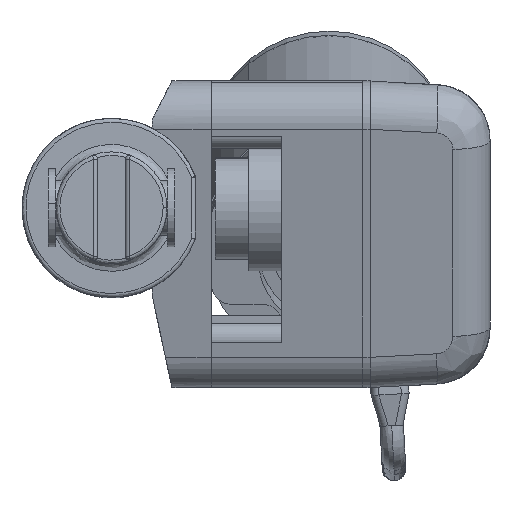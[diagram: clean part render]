
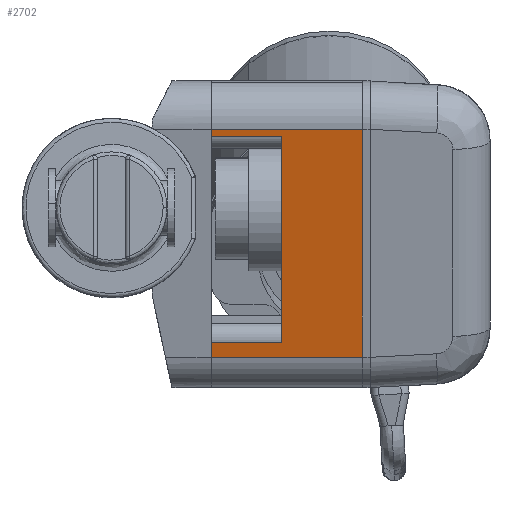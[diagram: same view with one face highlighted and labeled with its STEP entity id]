
A CAD part, top view. The second image highlights one B-rep face of the part: STEP entity #2702.
In plain terms, the highlighted planar face has unit normal (0, -0.233, 0.972).
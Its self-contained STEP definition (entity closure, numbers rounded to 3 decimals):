
#1589 = EDGE_CURVE ( 'NONE', #7650, #7651, #8252, .T. ) ;
#1591 = EDGE_CURVE ( 'NONE', #7651, #7338, #8259, .T. ) ;
#1686 = EDGE_CURVE ( 'NONE', #7384, #7383, #8690, .T. ) ;
#1707 = EDGE_CURVE ( 'NONE', #7701, #7702, #8753, .T. ) ;
#1772 = EDGE_CURVE ( 'NONE', #7338, #7336, #9192, .T. ) ;
#1863 = EDGE_CURVE ( 'NONE', #7384, #7650, #9815, .T. ) ;
#1871 = EDGE_CURVE ( 'NONE', #7702, #7383, #9839, .T. ) ;
#1872 = EDGE_CURVE ( 'NONE', #7336, #7701, #9842, .T. ) ;
#2702 = ADVANCED_FACE ( 'NONE', ( #3249 ), #13889, .T. ) ;
#3225 = AXIS2_PLACEMENT_3D ( 'NONE', #13890, #13891, #13892 ) ;
#3249 = FACE_OUTER_BOUND ( 'NONE', #20035, .T. ) ;
#4020 = VECTOR ( 'NONE', #8254, 1000. ) ;
#4037 = VECTOR ( 'NONE', #8261, 1000. ) ;
#4104 = VECTOR ( 'NONE', #8692, 1000. ) ;
#4159 = VECTOR ( 'NONE', #8755, 1000. ) ;
#4275 = VECTOR ( 'NONE', #9194, 1000. ) ;
#7336 = VERTEX_POINT ( 'NONE', #18255 ) ;
#7338 = VERTEX_POINT ( 'NONE', #18257 ) ;
#7383 = VERTEX_POINT ( 'NONE', #18302 ) ;
#7384 = VERTEX_POINT ( 'NONE', #18303 ) ;
#7650 = VERTEX_POINT ( 'NONE', #18544 ) ;
#7651 = VERTEX_POINT ( 'NONE', #18545 ) ;
#7701 = VERTEX_POINT ( 'NONE', #18583 ) ;
#7702 = VERTEX_POINT ( 'NONE', #18584 ) ;
#8252 = LINE ( 'NONE', #8253, #4020 ) ;
#8253 = CARTESIAN_POINT ( 'NONE',  ( 43.4, 18.261, 42.839 ) ) ;
#8254 = DIRECTION ( 'NONE',  ( 1., 0., 0. ) ) ;
#8259 = LINE ( 'NONE', #8260, #4037 ) ;
#8260 = CARTESIAN_POINT ( 'NONE',  ( 43.4, -57.334, 24.691 ) ) ;
#8261 = DIRECTION ( 'NONE',  ( 0., -0.972, -0.233 ) ) ;
#8690 = LINE ( 'NONE', #8691, #4104 ) ;
#8691 = CARTESIAN_POINT ( 'NONE',  ( -24.474, 19.995, 43.256 ) ) ;
#8692 = DIRECTION ( 'NONE',  ( 1., 0., 0. ) ) ;
#8753 = LINE ( 'NONE', #8754, #4159 ) ;
#8754 = CARTESIAN_POINT ( 'NONE',  ( 43.4, -37.999, 29.333 ) ) ;
#8755 = DIRECTION ( 'NONE',  ( 1., 0., 0. ) ) ;
#9192 = LINE ( 'NONE', #9193, #4275 ) ;
#9193 = CARTESIAN_POINT ( 'NONE',  ( 43.4, -34.247, 30.233 ) ) ;
#9194 = DIRECTION ( 'NONE',  ( -1., 0., 0. ) ) ;
#9815 = LINE ( 'NONE', #9816, #11831 ) ;
#9816 = CARTESIAN_POINT ( 'NONE',  ( 25.4, -57.334, 24.691 ) ) ;
#9817 = DIRECTION ( 'NONE',  ( 0., -0.972, -0.233 ) ) ;
#9839 = LINE ( 'NONE', #9840, #11805 ) ;
#9840 = CARTESIAN_POINT ( 'NONE',  ( 63.9, -57.334, 24.691 ) ) ;
#9841 = DIRECTION ( 'NONE',  ( 0., 0.972, 0.233 ) ) ;
#9842 = LINE ( 'NONE', #9843, #11791 ) ;
#9843 = CARTESIAN_POINT ( 'NONE',  ( 25.4, -57.334, 24.691 ) ) ;
#9844 = DIRECTION ( 'NONE',  ( 0., -0.972, -0.233 ) ) ;
#11791 = VECTOR ( 'NONE', #9844, 1000. ) ;
#11805 = VECTOR ( 'NONE', #9841, 1000. ) ;
#11831 = VECTOR ( 'NONE', #9817, 1000. ) ;
#13889 = PLANE ( 'NONE',  #3225 ) ;
#13890 = CARTESIAN_POINT ( 'NONE',  ( 43.4, -57.334, 24.691 ) ) ;
#13891 = DIRECTION ( 'NONE',  ( 0., -0.233, 0.972 ) ) ;
#13892 = DIRECTION ( 'NONE',  ( 1., 0., 0. ) ) ;
#18255 = CARTESIAN_POINT ( 'NONE',  ( 25.4, -34.247, 30.233 ) ) ;
#18257 = CARTESIAN_POINT ( 'NONE',  ( 43.4, -34.247, 30.233 ) ) ;
#18302 = CARTESIAN_POINT ( 'NONE',  ( 63.9, 19.995, 43.256 ) ) ;
#18303 = CARTESIAN_POINT ( 'NONE',  ( 25.4, 19.995, 43.256 ) ) ;
#18544 = CARTESIAN_POINT ( 'NONE',  ( 25.4, 18.261, 42.839 ) ) ;
#18545 = CARTESIAN_POINT ( 'NONE',  ( 43.4, 18.261, 42.839 ) ) ;
#18583 = CARTESIAN_POINT ( 'NONE',  ( 25.4, -37.999, 29.333 ) ) ;
#18584 = CARTESIAN_POINT ( 'NONE',  ( 63.9, -37.999, 29.333 ) ) ;
#19952 = ORIENTED_EDGE ( 'NONE', *, *, #1863, .T. ) ;
#20022 = ORIENTED_EDGE ( 'NONE', *, *, #1589, .T. ) ;
#20035 = EDGE_LOOP ( 'NONE', ( #19952, #20022, #20379, #20399, #20113, #20141, #20097, #20290 ) ) ;
#20097 = ORIENTED_EDGE ( 'NONE', *, *, #1871, .T. ) ;
#20113 = ORIENTED_EDGE ( 'NONE', *, *, #1872, .T. ) ;
#20141 = ORIENTED_EDGE ( 'NONE', *, *, #1707, .T. ) ;
#20290 = ORIENTED_EDGE ( 'NONE', *, *, #1686, .F. ) ;
#20379 = ORIENTED_EDGE ( 'NONE', *, *, #1591, .T. ) ;
#20399 = ORIENTED_EDGE ( 'NONE', *, *, #1772, .T. ) ;
